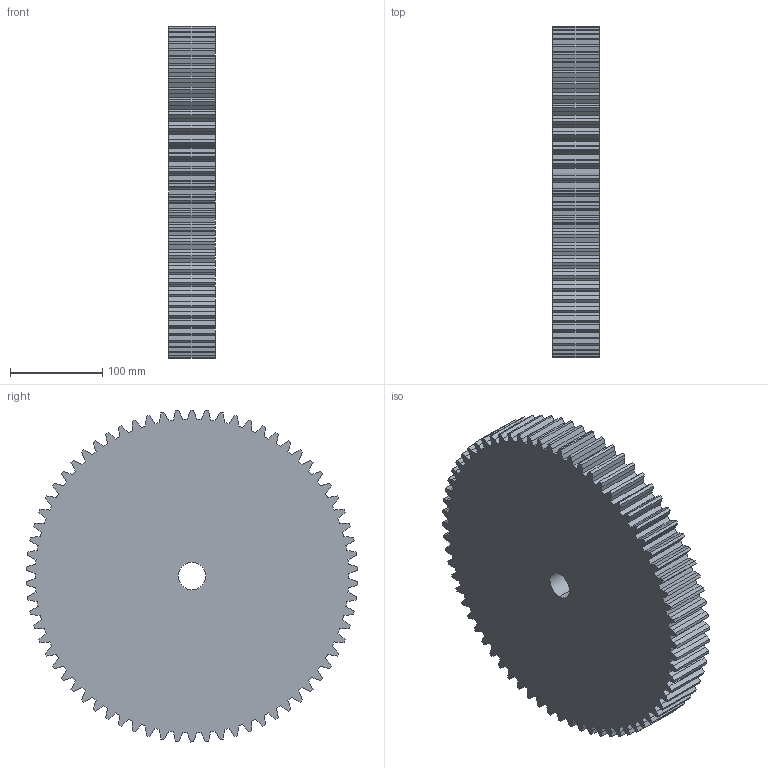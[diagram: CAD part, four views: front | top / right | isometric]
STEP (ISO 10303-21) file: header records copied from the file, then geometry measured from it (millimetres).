
FILE_DESCRIPTION (( 'STEP AP203' ), '1' );
FILE_NAME ('CM 32070.STEP', '2013-09-23T11:37:03', ( '' ), ( '' ), 'SwSTEP 2.0', 'SolidWorks 2010', '' );
FILE_SCHEMA (( 'CONFIG_CONTROL_DESIGN' ));
Length unit declared in the file: millimetre
Products named in the file (1): CM 32070
Bounding box: 50 x 359.77 x 359.99 mm (x, y, z)
Volume: 4745014.6 mm3; surface area: 298433.1 mm2
Topology: 1 solids, 1 shells, 425 faces, 1269 edges, 846 vertices
Faces by surface type: plane 282, cylinder 143
Entity records: 14910 total; most frequent: CARTESIAN_POINT 4995, ORIENTED_EDGE 2538, DIRECTION 1331, EDGE_CURVE 1269, VERTEX_POINT 846, B_SPLINE_CURVE_WITH_KNOTS 818, AXIS2_PLACEMENT_3D 454, EDGE_LOOP 427
